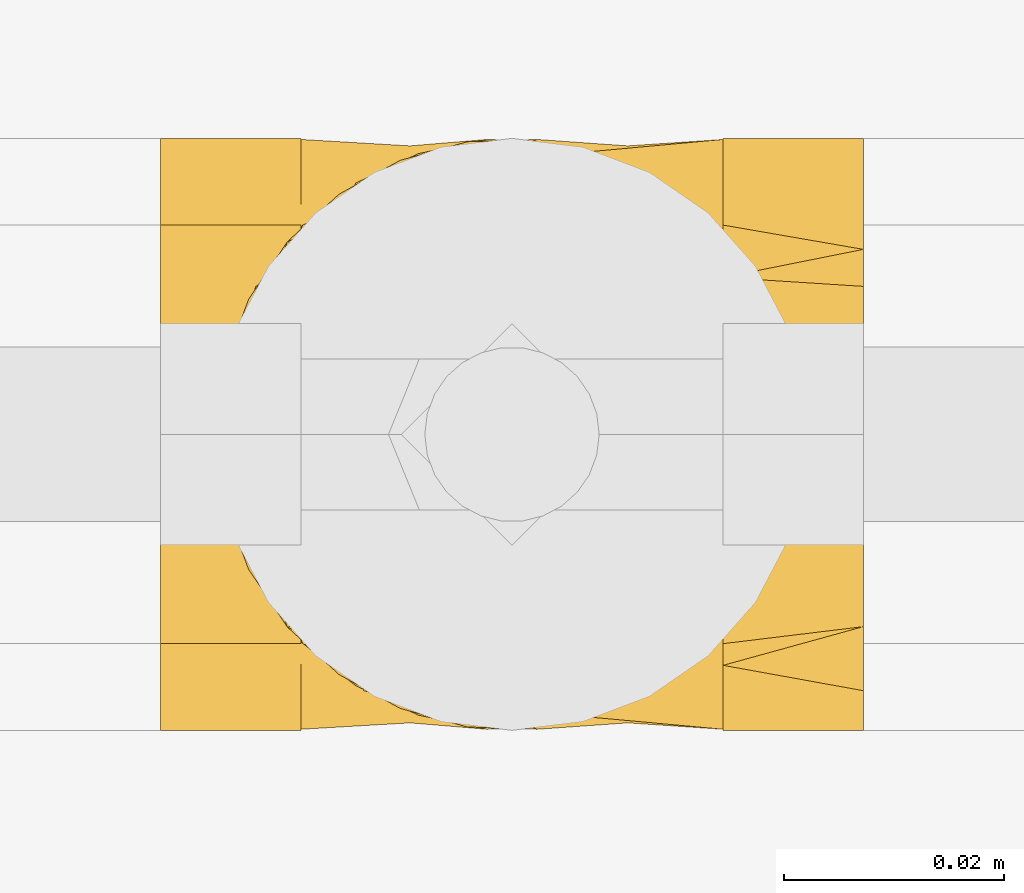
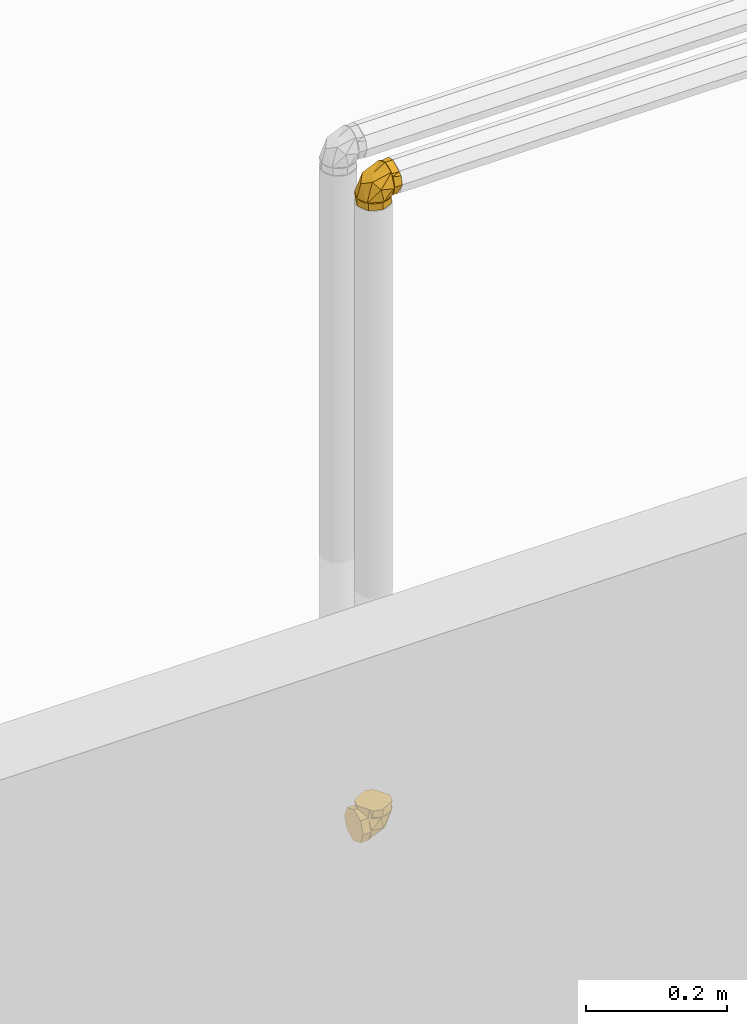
# One storey, part 286 of 652: 2 coverings.
"""IFC2X3 building model written with IfcOpenShell, lengths in millimetres."""

from ifc_helpers import new_model, entity, si_unit, converted_unit, direction, frame, origin, place, context, subcontext, project, spatial, face_set, surface_model, material, type_object, element, save


model = new_model("IFC2X3")

# Units and contexts
model_context = context("Model", 3, precision=0.01, world=frame((0.0, 0.0, 308426.39999999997)), true_north=direction((6.123233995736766e-17, 1.0)))
plan_context = context("Plan", 3, precision=0.01, world=frame((0.0, 0.0, 308426.39999999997)), true_north=direction((6.123233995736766e-17, 1.0)))
body_context = subcontext(model_context, "Body", "Model", "MODEL_VIEW")
ifc_project = project(units=[si_unit("LENGTHUNIT", "METRE", prefix="MILLI"), si_unit("AREAUNIT", "SQUARE_METRE"), si_unit("VOLUMEUNIT", "CUBIC_METRE"), converted_unit("PLANEANGLEUNIT", "DEGREE", entity("IfcPlaneAngleMeasure", 0.017453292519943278), si_unit("PLANEANGLEUNIT", "RADIAN"), dimensions=[0, 0, 0, 0, 0, 0, 0])], contexts=[model_context, plan_context])

# Site, building, storey
site_placement = place(None, origin())
site = spatial("IfcSite", under=ifc_project, at=site_placement, Name="Default", CompositionType="ELEMENT")
building_placement = place(site_placement, origin())
building = spatial("IfcBuilding", under=site, at=building_placement, CompositionType="ELEMENT")
storey_placement = place(building_placement, frame((0.0, 0.0, 1730.6999999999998)))
storey = spatial("IfcBuildingStorey", under=building, at=storey_placement, Name="EG_Produktion_FFB", CompositionType="ELEMENT", Elevation=1730.6999999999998)

# Coverings
ifc_material = material(Name="Dämmung - Armaflex-Schlauch")
covering_type = type_object("IfcCoveringType", Name="Rohrdämmung außen:Armaflex-Schlauch", PredefinedType="INSULATION")
covering_1_placement = place(storey_placement, frame((22732.37843313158, 36453.503785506, 2671.4672277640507)))
element("IfcCovering", 1, at=covering_1_placement, inside=storey, type_object=covering_type, material=ifc_material, Name="Rohrdämmung außen:Armaflex-Schlauch", ObjectType="Rohrdämmung außen:Armaflex-Schlauch", PredefinedType="INSULATION", context=body_context, shape_type="SurfaceModel", body=[
    surface_model("IfcFaceBasedSurfaceModel", [(12.766250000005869, 47.40912251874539, 47.75027223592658), (12.766250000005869, 51.38658262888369, 42.79223424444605), (12.766250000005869, 54.0915642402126, 37.040242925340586), (12.766250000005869, 55.37345654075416, 30.81456370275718), (12.766250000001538, 55.16088498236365, 24.46183649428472), (12.766250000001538, 53.46568534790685, 18.33577512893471), (12.766250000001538, 50.38224474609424, 12.777472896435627), (12.766250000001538, 46.08224622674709, 8.096410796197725), (12.766250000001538, 40.80510963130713, 4.553225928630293), (12.766250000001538, 34.84466092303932, 2.3451994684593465), (12.766250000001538, 28.532772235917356, 1.5952722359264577), (12.766250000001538, 22.220883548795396, 2.3451994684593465), (12.766250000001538, 16.26043484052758, 4.553225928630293), (12.766250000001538, 10.983298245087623, 8.096410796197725), (12.766250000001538, 6.683299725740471, 12.777472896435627), (12.766250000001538, 3.5998591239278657, 18.33577512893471), (12.766250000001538, 1.9046594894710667, 24.46183649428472), (12.766250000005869, 1.6920879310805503, 30.81456370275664), (12.766250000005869, 2.973980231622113, 37.04024292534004), (12.766250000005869, 5.678961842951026, 42.79223424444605), (12.766250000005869, 9.65642195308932, 47.75027223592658), (17.72428799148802, 5.678961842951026, 47.75027223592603), (23.476279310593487, 2.973980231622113, 47.75027223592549), (29.701958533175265, 1.6920879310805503, 47.75027223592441), (36.05468574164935, 1.9046594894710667, 47.75027223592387), (42.180747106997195, 3.5998591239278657, 47.750272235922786), (47.739049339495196, 6.683299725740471, 47.750272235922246), (52.420111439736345, 10.983298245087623, 47.750272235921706), (55.96329630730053, 16.26043484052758, 47.750272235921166), (58.17132276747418, 22.220883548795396, 47.750272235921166), (58.92125000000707, 28.532772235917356, 47.750272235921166), (58.17132276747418, 34.84466092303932, 47.750272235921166), (55.96329630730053, 40.80510963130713, 47.750272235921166), (52.420111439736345, 46.08224622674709, 47.750272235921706), (47.739049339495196, 50.38224474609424, 47.750272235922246), (42.180747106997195, 53.46568534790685, 47.750272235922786), (36.05468574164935, 55.16088498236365, 47.75027223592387), (29.701958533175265, 55.37345654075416, 47.75027223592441), (23.476279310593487, 54.0915642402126, 47.75027223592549), (17.72428799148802, 51.38658262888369, 47.75027223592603), (22.709365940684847, 54.78871937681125, 39.06982362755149), (35.84344797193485, 28.532182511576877, 7.779001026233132), (12.765786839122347, 50.728502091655, 19.45561388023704), (33.56451730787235, 53.46554432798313, 26.951086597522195), (43.18486032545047, 42.78015004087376, 18.67484758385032), (48.3775666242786, 28.532182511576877, 29.486687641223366), (41.06173410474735, 50.728502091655, 47.750398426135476), (43.18486032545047, 14.284214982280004, 18.67484758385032), (33.56451730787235, 3.5988206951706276, 26.951086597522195), (22.709365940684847, 2.2756456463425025, 39.06982362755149), (41.06173410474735, 6.338188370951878, 47.750398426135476), (12.765786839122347, 6.338188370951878, 19.45561388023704), (0.0, 28.532772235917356, 1.5952722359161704), (0.0, 23.77085000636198, 3.567725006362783), (0.0, 19.008927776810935, 5.540177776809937), (0.0, 14.247005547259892, 7.51263054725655), (0.0, 9.485083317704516, 9.485083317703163), (0.0, 7.512630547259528, 14.247005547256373), (0.0, 5.540177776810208, 19.008927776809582), (0.0, 3.567725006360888, 23.770850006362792), (0.0, 1.5952722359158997, 28.532772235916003), (0.0, 3.5677250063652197, 33.29469446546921), (0.0, 5.540177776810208, 38.05661669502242), (0.0, 7.512630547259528, 42.818538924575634), (0.0, 9.485083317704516, 47.5804611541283), (0.0, 14.247005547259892, 49.552913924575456), (0.0, 19.008927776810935, 51.525366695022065), (0.0, 23.77085000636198, 53.49781946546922), (0.0, 28.532772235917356, 55.470272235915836), (0.0, 33.2946944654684, 53.49781946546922), (0.0, 38.05661669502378, 51.525366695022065), (0.0, 42.81853892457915, 49.552913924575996), (0.0, 47.5804611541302, 47.58046115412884), (0.0, 49.552913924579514, 42.818538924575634), (0.0, 51.5253666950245, 38.05661669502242), (0.0, 53.49781946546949, 33.29469446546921), (0.0, 55.47027223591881, 28.532772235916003), (0.0, 53.49781946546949, 23.770850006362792), (0.0, 51.5253666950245, 19.008927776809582), (0.0, 49.552913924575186, 14.247005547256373), (0.0, 47.5804611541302, 9.485083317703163), (0.0, 42.81853892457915, 7.512630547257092), (0.0, 38.05661669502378, 5.540177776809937), (0.0, 33.2946944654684, 3.567725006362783), (12.766250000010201, 28.532772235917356, 1.5952722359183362), (12.766250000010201, 33.2946944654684, 3.567725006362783), (12.766250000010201, 38.05661669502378, 5.540177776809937), (12.766250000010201, 42.81853892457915, 7.512630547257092), (12.766250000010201, 47.5804611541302, 9.485083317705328), (12.766250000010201, 49.96980627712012, 15.253472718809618), (12.766250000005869, 52.359151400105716, 21.021862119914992), (12.766250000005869, 55.47027223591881, 28.532772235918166), (12.766250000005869, 53.49781946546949, 33.29469446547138), (12.766250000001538, 51.5253666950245, 38.05661669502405), (12.766250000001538, 49.552913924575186, 42.818538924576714), (12.766250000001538, 47.5804611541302, 47.58046115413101), (12.766250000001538, 41.812071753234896, 49.96980627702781), (12.766250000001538, 36.0436823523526, 52.359151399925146), (12.766250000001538, 28.532772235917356, 55.470272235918), (12.766250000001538, 23.77085000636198, 53.49781946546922), (12.766250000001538, 19.008927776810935, 51.52536669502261), (12.766250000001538, 14.24700554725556, 49.552913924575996), (12.766250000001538, 9.485083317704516, 47.58046115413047), (12.766250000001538, 7.095738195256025, 41.81207175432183), (12.766250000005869, 4.706393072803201, 36.04368235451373), (12.766250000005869, 1.5952722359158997, 28.532772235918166), (12.766250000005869, 3.567725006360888, 23.77085000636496), (12.766250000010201, 5.540177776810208, 19.008927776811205), (12.766250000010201, 7.512630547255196, 14.247005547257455), (12.766250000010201, 9.485083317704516, 9.485083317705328), (12.766250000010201, 15.253472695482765, 7.095738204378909), (12.766250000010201, 21.02186207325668, 4.706393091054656), (58.92125000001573, 28.532772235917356, 60.516522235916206), (55.554062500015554, 34.36491206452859, 60.51652223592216), (52.18687500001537, 40.197051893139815, 60.51652223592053), (48.819687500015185, 46.02919172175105, 60.516522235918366), (45.45250000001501, 51.86133155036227, 60.516522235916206), (38.718125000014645, 53.66580189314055, 60.516522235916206), (31.98375000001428, 55.47027223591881, 60.516522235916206), (26.151610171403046, 52.10308473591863, 60.51652223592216), (20.319470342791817, 48.73589723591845, 60.51652223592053), (14.487330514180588, 45.368709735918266, 60.516522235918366), (8.655190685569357, 42.00152223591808, 60.516522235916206), (6.85072034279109, 35.26714723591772, 60.516522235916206), (5.046250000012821, 28.532772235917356, 60.516522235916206), (8.413437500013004, 22.700632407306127, 60.51652223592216), (11.780625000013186, 16.868492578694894, 60.51652223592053), (15.147812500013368, 11.036352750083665, 60.516522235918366), (18.51500000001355, 5.204212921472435, 60.516522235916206), (25.249375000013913, 3.3997425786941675, 60.516522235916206), (31.98375000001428, 1.5952722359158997, 60.516522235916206), (37.81588982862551, 4.962459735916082, 60.51652223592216), (43.64802965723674, 8.329647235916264, 60.51652223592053), (49.480169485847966, 11.696834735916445, 60.516522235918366), (55.3123093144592, 15.064022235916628, 60.516522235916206), (57.116779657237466, 21.79839723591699, 60.516522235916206), (58.921250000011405, 28.532772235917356, 47.75027223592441), (56.948797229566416, 23.770850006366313, 47.75027223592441), (54.97634445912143, 19.008927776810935, 47.75027223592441), (53.003891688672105, 14.24700554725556, 47.75027223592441), (51.03143891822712, 9.485083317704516, 47.75027223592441), (46.26951668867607, 7.512630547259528, 47.75027223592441), (41.507594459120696, 5.540177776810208, 47.75027223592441), (36.74567222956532, 3.567725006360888, 47.75027223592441), (31.98375000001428, 1.5952722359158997, 47.75027223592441), (27.221827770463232, 3.567725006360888, 47.75027223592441), (22.459905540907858, 5.540177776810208, 47.75027223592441), (17.697983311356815, 7.512630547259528, 47.75027223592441), (12.936061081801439, 9.485083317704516, 47.75027223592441), (10.963608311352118, 14.247005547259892, 47.75027223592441), (8.99115554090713, 19.008927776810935, 47.75027223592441), (7.01870277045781, 23.77085000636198, 47.75027223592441), (5.046250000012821, 28.532772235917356, 47.75027223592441), (7.018702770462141, 33.29469446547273, 47.75027223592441), (8.99115554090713, 38.05661669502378, 47.75027223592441), (10.96360831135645, 42.81853892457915, 47.75027223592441), (12.936061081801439, 47.5804611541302, 47.75027223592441), (17.697983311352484, 49.552913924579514, 47.75027223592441), (22.459905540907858, 51.5253666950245, 47.75027223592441), (27.221827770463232, 53.49781946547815, 47.75027223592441), (31.98375000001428, 55.47027223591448, 47.75027223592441), (36.74567222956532, 53.49781946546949, 47.75027223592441), (41.507594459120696, 51.5253666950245, 47.75027223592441), (46.26951668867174, 49.552913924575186, 47.75027223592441), (51.03143891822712, 47.5804611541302, 47.75027223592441), (53.00389168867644, 42.81853892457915, 47.75027223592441), (54.97634445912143, 38.05661669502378, 47.75027223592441), (56.948797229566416, 33.2946944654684, 47.75027223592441)], [face_set([[[0, 1, 2, 3, 4, 5, 6, 7, 8, 9, 10, 11, 12, 13, 14, 15, 16, 17, 18, 19]], [[20, 21, 22, 23, 24, 25, 26, 27, 28, 29, 30, 31, 32, 33, 34, 35, 36, 37, 38, 39]], [[0, 40, 3]], [[10, 7, 41]], [[42, 3, 43]], [[40, 43, 3]], [[37, 40, 0]], [[7, 43, 44]], [[45, 41, 44]], [[7, 44, 41]], [[33, 30, 45]], [[45, 44, 33]], [[43, 33, 44]], [[43, 37, 46]], [[43, 7, 42]], [[37, 43, 40]], [[46, 33, 43]], [[13, 10, 41]], [[27, 47, 45]], [[45, 30, 27]], [[48, 47, 27]], [[49, 48, 23]], [[48, 50, 23]], [[45, 47, 41]], [[20, 49, 23]], [[47, 48, 13]], [[17, 49, 20]], [[41, 47, 13]], [[48, 17, 51]], [[48, 27, 50]], [[17, 48, 49]], [[51, 13, 48]]]), face_set([[[52, 53, 54, 55, 56, 57, 58, 59, 60, 61, 62, 63, 64, 65, 66, 67, 68, 69, 70, 71, 72, 73, 74, 75, 76, 77, 78, 79, 80, 81, 82, 83]], [[84, 85, 86, 87, 88, 89, 90, 91, 92, 93, 94, 95, 96, 97, 98, 99, 100, 101, 102, 103, 104, 105, 106, 107, 108, 109, 110, 111]], [[111, 110, 109, 56, 55, 54, 53, 52, 84]], [[56, 109, 108, 107, 106, 105, 60, 59, 58, 57]], [[104, 103, 102, 64, 63, 62, 61, 60, 105]], [[64, 102, 101, 100, 99, 98, 68, 67, 66, 65]], [[97, 96, 95, 72, 71, 70, 69, 68, 98]], [[72, 95, 94, 93, 92, 91, 76, 75, 74, 73]], [[90, 89, 88, 80, 79, 78, 77, 76, 91]], [[80, 88, 87, 86, 85, 84, 52, 83, 82, 81]]]), face_set([[[112, 113, 114, 115, 116, 117, 118, 119, 120, 121, 122, 123, 124, 125, 126, 127, 128, 129, 130, 131, 132, 133, 134, 135]], [[136, 137, 138, 139, 140, 141, 142, 143, 144, 145, 146, 147, 148, 149, 150, 151, 152, 153, 154, 155, 156, 157, 158, 159, 160, 161, 162, 163, 164, 165, 166, 167]], [[155, 121, 156]], [[118, 159, 119]], [[159, 158, 119]], [[123, 154, 153]], [[153, 152, 124]], [[121, 155, 122]], [[120, 158, 157]], [[118, 160, 159]], [[158, 120, 119]], [[124, 123, 153]], [[157, 156, 121]], [[155, 154, 122]], [[123, 122, 154]], [[120, 157, 121]], [[163, 115, 164]], [[112, 167, 113]], [[167, 166, 113]], [[117, 162, 161]], [[161, 160, 118]], [[115, 163, 116]], [[114, 166, 165]], [[112, 136, 167]], [[166, 114, 113]], [[118, 117, 161]], [[165, 164, 115]], [[163, 162, 116]], [[117, 116, 162]], [[114, 165, 115]], [[139, 133, 140]], [[130, 143, 131]], [[143, 142, 131]], [[135, 138, 137]], [[137, 136, 112]], [[133, 139, 134]], [[132, 142, 141]], [[130, 144, 143]], [[142, 132, 131]], [[112, 135, 137]], [[141, 140, 133]], [[139, 138, 134]], [[135, 134, 138]], [[132, 141, 133]], [[147, 127, 148]], [[124, 151, 125]], [[151, 150, 125]], [[129, 146, 145]], [[145, 144, 130]], [[127, 147, 128]], [[126, 150, 149]], [[124, 152, 151]], [[150, 126, 125]], [[130, 129, 145]], [[149, 148, 127]], [[147, 146, 128]], [[129, 128, 146]], [[126, 149, 127]]])]),
])
covering_2_placement = place(storey_placement, frame((22735.829410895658, 36453.503785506, 3768.0162500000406)))
element("IfcCovering", 2, at=covering_2_placement, inside=storey, type_object=covering_type, material=ifc_material, Name="Rohrdämmung außen:Armaflex-Schlauch", ObjectType="Rohrdämmung außen:Armaflex-Schlauch", PredefinedType="INSULATION", context=body_context, shape_type="SurfaceModel", body=[
    surface_model("IfcFaceBasedSurfaceModel", [(47.75027223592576, 9.65642195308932, 12.766250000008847), (42.79223424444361, 5.678961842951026, 12.766250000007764), (37.04024292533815, 2.973980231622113, 12.766250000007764), (30.81456370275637, 1.6920879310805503, 12.76625000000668), (24.461836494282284, 1.9046594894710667, 12.766250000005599), (18.33577512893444, 3.5998591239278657, 12.766250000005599), (12.77747289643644, 6.683299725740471, 12.766250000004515), (8.09641079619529, 10.983298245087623, 12.766250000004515), (4.553225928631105, 16.26043484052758, 12.766250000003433), (2.3451994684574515, 22.220883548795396, 12.766250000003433), (1.5952722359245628, 28.532772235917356, 12.766250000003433), (2.3451994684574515, 34.84466092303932, 12.766250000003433), (4.553225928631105, 40.80510963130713, 12.766250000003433), (8.09641079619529, 46.08224622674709, 12.766250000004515), (12.77747289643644, 50.38224474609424, 12.766250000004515), (18.33577512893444, 53.46568534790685, 12.766250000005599), (24.461836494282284, 55.16088498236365, 12.766250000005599), (30.81456370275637, 55.37345654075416, 12.76625000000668), (37.04024292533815, 54.0915642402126, 12.766250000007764), (42.79223424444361, 51.38658262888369, 12.766250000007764), (47.75027223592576, 47.40912251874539, 12.766250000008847), (47.75027223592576, 5.678961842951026, 17.72428799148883), (47.75027223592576, 2.973980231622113, 23.47627931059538), (47.75027223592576, 1.6920879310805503, 29.701958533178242), (47.750272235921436, 1.9046594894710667, 36.05468574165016), (47.750272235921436, 3.5998591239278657, 42.18074710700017), (47.750272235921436, 6.683299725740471, 47.73904933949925), (47.750272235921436, 10.983298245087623, 52.420111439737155), (47.750272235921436, 16.26043484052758, 55.96329630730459), (47.750272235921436, 22.220883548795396, 58.17132276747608), (47.750272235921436, 28.532772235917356, 58.92125000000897), (47.750272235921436, 34.84466092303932, 58.17132276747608), (47.750272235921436, 40.80510963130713, 55.963296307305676), (47.750272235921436, 46.08224622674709, 52.42011143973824), (47.750272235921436, 50.38224474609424, 47.73904933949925), (47.750272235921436, 53.46568534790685, 42.18074710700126), (47.750272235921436, 55.16088498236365, 36.05468574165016), (47.75027223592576, 55.37345654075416, 29.701958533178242), (47.75027223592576, 54.0915642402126, 23.47627931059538), (47.75027223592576, 51.38658262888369, 17.724287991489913), (39.06880687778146, 2.2756456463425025, 22.708937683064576), (7.7800190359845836, 28.532182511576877, 35.843601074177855), (26.950941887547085, 3.5988206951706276, 33.56525176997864), (19.456050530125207, 6.338188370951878, 12.766521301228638), (29.485670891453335, 28.532182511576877, 48.376557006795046), (18.67470287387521, 14.284214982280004, 43.18385070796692), (47.74967235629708, 6.338188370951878, 41.06130584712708), (18.67470287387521, 42.78015004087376, 43.18385070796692), (39.06880687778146, 54.78871937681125, 22.708937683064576), (26.950941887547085, 53.46554432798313, 33.56525176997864), (47.74967235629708, 50.728502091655, 41.06130584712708), (19.456050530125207, 50.728502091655, 12.766521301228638), (1.5952722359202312, 28.532772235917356, 0.0), (3.567725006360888, 33.2946944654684, 0.0), (5.540177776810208, 38.05661669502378, 0.0), (7.512630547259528, 42.81853892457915, 0.0), (9.485083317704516, 47.5804611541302, 0.0), (14.247005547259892, 49.552913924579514, 0.0), (19.008927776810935, 51.5253666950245, 0.0), (23.77085000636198, 53.49781946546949, 0.0), (28.532772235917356, 55.47027223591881, 0.0), (33.2946944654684, 53.49781946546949, 0.0), (38.05661669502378, 51.5253666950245, 0.0), (42.81853892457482, 49.552913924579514, 0.0), (47.5804611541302, 47.5804611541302, 0.0), (49.552913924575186, 42.81853892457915, 0.0), (51.5253666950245, 38.05661669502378, 0.0), (53.497819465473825, 33.2946944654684, 0.0), (55.47027223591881, 28.532772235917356, 0.0), (53.49781946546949, 23.770850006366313, 0.0), (51.5253666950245, 19.008927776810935, 0.0), (49.552913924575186, 14.247005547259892, 0.0), (47.5804611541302, 9.485083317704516, 0.0), (42.81853892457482, 7.512630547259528, 0.0), (38.05661669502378, 5.540177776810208, 0.0), (33.29469446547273, 3.567725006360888, 0.0), (28.532772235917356, 1.5952722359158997, 0.0), (23.770850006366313, 3.5677250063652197, 0.0), (19.008927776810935, 5.540177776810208, 0.0), (14.24700554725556, 7.512630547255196, 0.0), (9.485083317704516, 9.485083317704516, 0.0), (7.512630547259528, 14.24700554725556, 0.0), (5.540177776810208, 19.008927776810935, 0.0), (3.5677250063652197, 23.77085000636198, 0.0), (1.5952722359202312, 28.532772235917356, 12.766250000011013), (3.567725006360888, 23.770850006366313, 12.766250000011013), (5.540177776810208, 19.008927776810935, 12.76625000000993), (7.512630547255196, 14.247005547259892, 12.76625000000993), (9.485083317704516, 9.485083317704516, 12.76625000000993), (15.253472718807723, 7.095738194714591, 12.766250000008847), (21.021862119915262, 4.706393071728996, 12.766250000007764), (28.532772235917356, 1.5952722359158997, 12.76625000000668), (33.29469446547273, 3.567725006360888, 12.766250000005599), (38.056616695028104, 5.540177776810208, 12.766250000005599), (42.81853892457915, 7.512630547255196, 12.766250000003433), (47.5804611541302, 9.485083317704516, 12.766250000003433), (49.96980627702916, 15.25347271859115, 12.766250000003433), (52.35915139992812, 21.021862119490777, 12.766250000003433), (55.47027223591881, 28.532772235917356, 12.76625000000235), (53.49781946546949, 33.2946944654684, 12.76625000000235), (51.5253666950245, 38.05661669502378, 12.766250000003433), (49.552913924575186, 42.81853892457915, 12.766250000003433), (47.5804611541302, 47.5804611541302, 12.766250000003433), (41.8120717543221, 49.96980627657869, 12.766250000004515), (36.043682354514, 52.35915139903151, 12.766250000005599), (28.532772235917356, 55.47027223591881, 12.76625000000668), (23.77085000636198, 53.49781946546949, 12.766250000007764), (19.008927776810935, 51.5253666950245, 12.766250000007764), (14.24700554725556, 49.552913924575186, 12.766250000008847), (9.485083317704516, 47.5804611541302, 12.76625000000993), (7.0957382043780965, 41.81207177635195, 12.76625000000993), (4.706393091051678, 36.043682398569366, 12.766250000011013), (60.51652223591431, 28.532772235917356, 58.92125000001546), (60.51652223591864, 22.700632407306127, 55.554062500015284), (60.51652223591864, 16.868492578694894, 52.1868750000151), (60.51652223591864, 11.036352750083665, 48.819687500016), (60.51652223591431, 5.204212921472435, 45.45250000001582), (60.51652223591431, 3.3997425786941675, 38.718125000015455), (60.51652223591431, 1.5952722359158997, 31.98375000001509), (60.51652223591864, 4.962459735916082, 26.151610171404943), (60.51652223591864, 8.329647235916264, 20.319470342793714), (60.51652223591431, 11.696834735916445, 14.487330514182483), (60.51652223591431, 15.064022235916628, 8.655190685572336), (60.51652223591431, 21.79839723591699, 6.850720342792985), (60.51652223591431, 28.532772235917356, 5.046250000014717), (60.51652223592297, 34.36491206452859, 8.413437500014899), (60.51652223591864, 40.197051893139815, 11.78062500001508), (60.51652223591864, 46.02919172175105, 15.147812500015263), (60.51652223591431, 51.86133155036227, 18.515000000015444), (60.51652223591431, 53.66580189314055, 25.24937500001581), (60.51652223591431, 55.47027223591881, 31.98375000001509), (60.51652223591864, 52.10308473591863, 37.81588982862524), (60.51652223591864, 48.73589723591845, 43.64802965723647), (60.51652223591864, 45.368709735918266, 49.480169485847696), (60.51652223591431, 42.00152223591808, 55.31230931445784), (60.51652223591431, 35.26714723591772, 57.116779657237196), (47.75027223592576, 28.532772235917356, 58.92125000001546), (47.75027223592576, 33.2946944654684, 56.94879722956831), (47.75027223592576, 38.05661669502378, 54.97634445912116), (47.75027223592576, 42.81853892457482, 53.003891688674), (47.75027223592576, 47.5804611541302, 51.03143891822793), (47.75027223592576, 49.552913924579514, 46.26951668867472), (47.75027223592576, 51.5253666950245, 41.50759445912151), (47.75027223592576, 53.49781946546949, 36.7456722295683), (47.75027223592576, 55.47027223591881, 31.98375000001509), (47.75027223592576, 53.49781946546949, 27.22182777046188), (47.75027223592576, 51.5253666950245, 22.45990554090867), (47.75027223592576, 49.552913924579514, 17.69798331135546), (47.75027223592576, 47.5804611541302, 12.93606108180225), (47.75027223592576, 42.81853892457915, 10.963608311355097), (47.75027223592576, 38.05661669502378, 8.991155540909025), (47.75027223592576, 33.2946944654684, 7.0187027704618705), (47.75027223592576, 28.532772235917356, 5.0462500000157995), (47.75027223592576, 23.770850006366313, 7.0187027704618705), (47.75027223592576, 19.008927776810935, 8.991155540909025), (47.75027223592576, 14.247005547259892, 10.963608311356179), (47.75027223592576, 9.485083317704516, 12.93606108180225), (47.75027223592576, 7.512630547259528, 17.69798331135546), (47.75027223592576, 5.540177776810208, 22.45990554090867), (47.75027223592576, 3.5677250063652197, 27.22182777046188), (47.75027223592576, 1.5952722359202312, 31.98375000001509), (47.75027223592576, 3.567725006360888, 36.7456722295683), (47.75027223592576, 5.540177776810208, 41.50759445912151), (47.75027223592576, 7.512630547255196, 46.26951668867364), (47.75027223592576, 9.485083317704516, 51.03143891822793), (47.75027223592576, 14.24700554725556, 53.00389168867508), (47.75027223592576, 19.008927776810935, 54.97634445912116), (47.75027223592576, 23.77085000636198, 56.94879722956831)], [face_set([[[0, 1, 2, 3, 4, 5, 6, 7, 8, 9, 10, 11, 12, 13, 14, 15, 16, 17, 18, 19]], [[20, 21, 22, 23, 24, 25, 26, 27, 28, 29, 30, 31, 32, 33, 34, 35, 36, 37, 38, 39]], [[0, 40, 3]], [[10, 7, 41]], [[23, 42, 40]], [[42, 7, 43]], [[23, 40, 0]], [[3, 40, 42]], [[44, 41, 45]], [[7, 45, 41]], [[27, 30, 44]], [[44, 45, 27]], [[42, 27, 45]], [[42, 23, 46]], [[7, 42, 45]], [[43, 3, 42]], [[46, 27, 42]], [[13, 10, 41]], [[33, 47, 44]], [[44, 30, 33]], [[48, 49, 37]], [[49, 33, 50]], [[17, 49, 48]], [[44, 47, 41]], [[20, 48, 37]], [[47, 49, 13]], [[17, 48, 20]], [[41, 47, 13]], [[49, 17, 51]], [[33, 49, 47]], [[50, 37, 49]], [[51, 13, 49]]]), face_set([[[52, 53, 54, 55, 56, 57, 58, 59, 60, 61, 62, 63, 64, 65, 66, 67, 68, 69, 70, 71, 72, 73, 74, 75, 76, 77, 78, 79, 80, 81, 82, 83]], [[84, 85, 86, 87, 88, 89, 90, 91, 92, 93, 94, 95, 96, 97, 98, 99, 100, 101, 102, 103, 104, 105, 106, 107, 108, 109, 110, 111]], [[111, 110, 109, 56, 55, 54, 53, 52, 84]], [[56, 109, 108, 107, 106, 105, 60, 59, 58, 57]], [[104, 103, 102, 64, 63, 62, 61, 60, 105]], [[64, 102, 101, 100, 99, 98, 68, 67, 66, 65]], [[97, 96, 95, 72, 71, 70, 69, 68, 98]], [[72, 95, 94, 93, 92, 91, 76, 75, 74, 73]], [[90, 89, 88, 80, 79, 78, 77, 76, 91]], [[80, 88, 87, 86, 85, 84, 52, 83, 82, 81]]]), face_set([[[112, 113, 114, 115, 116, 117, 118, 119, 120, 121, 122, 123, 124, 125, 126, 127, 128, 129, 130, 131, 132, 133, 134, 135]], [[136, 137, 138, 139, 140, 141, 142, 143, 144, 145, 146, 147, 148, 149, 150, 151, 152, 153, 154, 155, 156, 157, 158, 159, 160, 161, 162, 163, 164, 165, 166, 167]], [[155, 121, 156]], [[118, 159, 119]], [[159, 158, 119]], [[123, 154, 153]], [[153, 152, 124]], [[121, 155, 122]], [[120, 158, 157]], [[118, 160, 159]], [[158, 120, 119]], [[124, 123, 153]], [[157, 156, 121]], [[155, 154, 122]], [[123, 122, 154]], [[120, 157, 121]], [[163, 115, 164]], [[112, 167, 113]], [[167, 166, 113]], [[117, 162, 161]], [[161, 160, 118]], [[115, 163, 116]], [[114, 166, 165]], [[112, 136, 167]], [[166, 114, 113]], [[118, 117, 161]], [[165, 164, 115]], [[163, 162, 116]], [[117, 116, 162]], [[114, 165, 115]], [[139, 133, 140]], [[130, 143, 131]], [[143, 142, 131]], [[135, 138, 137]], [[137, 136, 112]], [[133, 139, 134]], [[132, 142, 141]], [[130, 144, 143]], [[142, 132, 131]], [[112, 135, 137]], [[141, 140, 133]], [[139, 138, 134]], [[135, 134, 138]], [[132, 141, 133]], [[147, 127, 148]], [[124, 151, 125]], [[151, 150, 125]], [[129, 146, 145]], [[145, 144, 130]], [[127, 147, 128]], [[126, 150, 149]], [[124, 152, 151]], [[150, 126, 125]], [[130, 129, 145]], [[149, 148, 127]], [[147, 146, 128]], [[129, 128, 146]], [[126, 149, 127]]])]),
])

save(model, "model.ifc")
